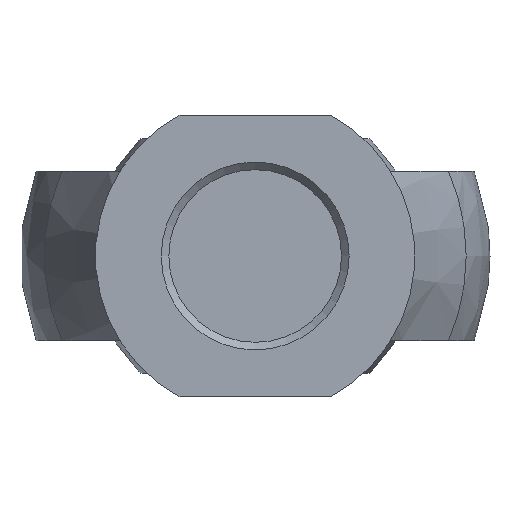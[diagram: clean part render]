
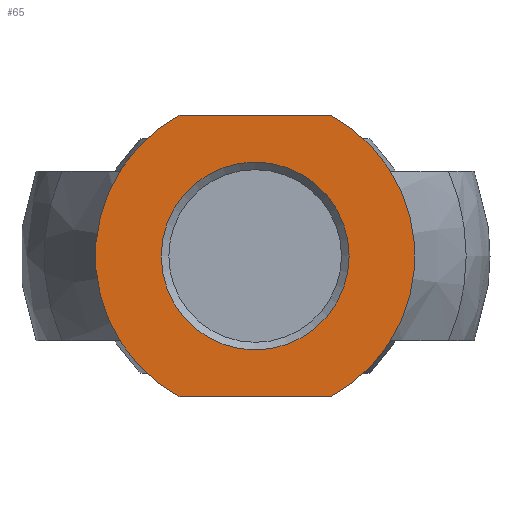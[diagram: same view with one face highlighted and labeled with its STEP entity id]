
A CAD part, front view. The second image highlights one B-rep face of the part: STEP entity #65.
In plain terms, the highlighted planar face has unit normal (0, -1, 0).
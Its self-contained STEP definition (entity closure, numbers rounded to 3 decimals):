
#65 = ADVANCED_FACE( '', ( #147, #148 ), #149, .F. );
#147 = FACE_BOUND( '', #253, .T. );
#148 = FACE_OUTER_BOUND( '', #254, .T. );
#149 = PLANE( '', #255 );
#253 = EDGE_LOOP( '', ( #385 ) );
#254 = EDGE_LOOP( '', ( #386, #387, #388, #389 ) );
#255 = AXIS2_PLACEMENT_3D( '', #390, #391, #392 );
#385 = ORIENTED_EDGE( '', *, *, #531, .F. );
#386 = ORIENTED_EDGE( '', *, *, #557, .T. );
#387 = ORIENTED_EDGE( '', *, *, #555, .T. );
#388 = ORIENTED_EDGE( '', *, *, #558, .T. );
#389 = ORIENTED_EDGE( '', *, *, #547, .T. );
#390 = CARTESIAN_POINT( '', ( 17., -77., 0. ) );
#391 = DIRECTION( '', ( 0., 1., 0. ) );
#392 = DIRECTION( '', ( 0., 0., 1. ) );
#531 = EDGE_CURVE( '', #608, #608, #609, .T. );
#547 = EDGE_CURVE( '', #631, #635, #637, .T. );
#555 = EDGE_CURVE( '', #644, #648, #650, .T. );
#557 = EDGE_CURVE( '', #635, #644, #652, .T. );
#558 = EDGE_CURVE( '', #648, #631, #653, .T. );
#608 = VERTEX_POINT( '', #728 );
#609 = CIRCLE( '', #729, 10. );
#631 = VERTEX_POINT( '', #754 );
#635 = VERTEX_POINT( '', #759 );
#637 = CIRCLE( '', #762, 17. );
#644 = VERTEX_POINT( '', #776 );
#648 = VERTEX_POINT( '', #781 );
#650 = CIRCLE( '', #784, 17. );
#652 = LINE( '', #786, #787 );
#653 = LINE( '', #788, #789 );
#728 = CARTESIAN_POINT( '', ( 10., -77., 0. ) );
#729 = AXIS2_PLACEMENT_3D( '', #951, #952, #953 );
#754 = CARTESIAN_POINT( '', ( -8., -77., 15. ) );
#759 = CARTESIAN_POINT( '', ( -8., -77., -15. ) );
#762 = AXIS2_PLACEMENT_3D( '', #980, #981, #982 );
#776 = CARTESIAN_POINT( '', ( 8., -77., -15. ) );
#781 = CARTESIAN_POINT( '', ( 8., -77., 15. ) );
#784 = AXIS2_PLACEMENT_3D( '', #991, #992, #993 );
#786 = CARTESIAN_POINT( '', ( -8., -77., -15. ) );
#787 = VECTOR( '', #994, 1000. );
#788 = CARTESIAN_POINT( '', ( 8., -77., 15. ) );
#789 = VECTOR( '', #995, 1000. );
#951 = CARTESIAN_POINT( '', ( 0., -77., 0. ) );
#952 = DIRECTION( '', ( 0., -1., 0. ) );
#953 = DIRECTION( '', ( 1., 0., 0. ) );
#980 = CARTESIAN_POINT( '', ( 0., -77., 0. ) );
#981 = DIRECTION( '', ( 0., -1., 0. ) );
#982 = DIRECTION( '', ( 0., 0., -1. ) );
#991 = CARTESIAN_POINT( '', ( 0., -77., 0. ) );
#992 = DIRECTION( '', ( 0., -1., 0. ) );
#993 = DIRECTION( '', ( 0., 0., -1. ) );
#994 = DIRECTION( '', ( 1., 0., 0. ) );
#995 = DIRECTION( '', ( -1., 0., 0. ) );
